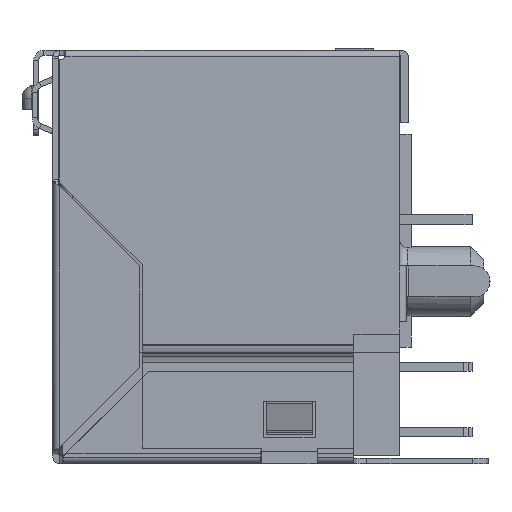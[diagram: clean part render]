
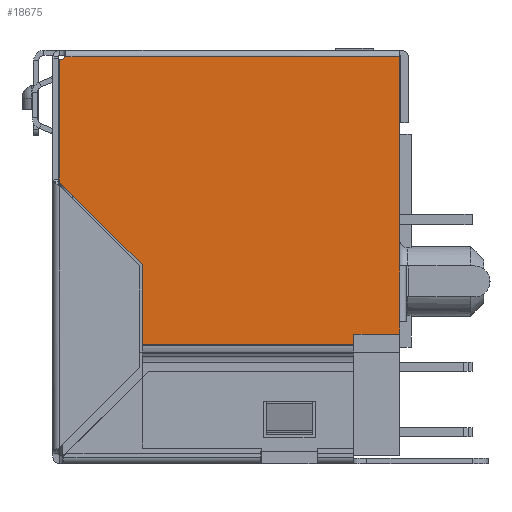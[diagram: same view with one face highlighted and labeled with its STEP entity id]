
A CAD part, left-side view. The second image highlights one B-rep face of the part: STEP entity #18675.
In plain terms, the highlighted planar face has unit normal (-1, 0, 0).
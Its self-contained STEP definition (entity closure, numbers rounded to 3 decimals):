
#2065=CARTESIAN_POINT('',(-27.85,-0.214,0.08));
#2075=DIRECTION('',(0.,1.,0.));
#2076=VECTOR('',#2075,12.956);
#2077=CARTESIAN_POINT('',(-27.85,-13.17,0.08));
#2078=LINE('',#2077,#2076);
#2105=DIRECTION('',(0.,0.,1.));
#2106=VECTOR('',#2105,8.1);
#2107=CARTESIAN_POINT('',(-27.85,-13.17,-8.02));
#2108=LINE('',#2107,#2106);
#4126=DIRECTION('',(0.,0.,1.));
#4127=VECTOR('',#4126,0.397);
#4128=CARTESIAN_POINT('',(-27.85,-11.4,-11.067));
#4129=LINE('',#4128,#4127);
#5056=DIRECTION('',(0.,0.,-1.));
#5057=VECTOR('',#5056,3.097);
#5058=CARTESIAN_POINT('',(-27.85,-3.2,-7.97));
#5059=LINE('',#5058,#5057);
#5064=DIRECTION('',(0.,-1.,0.));
#5065=VECTOR('',#5064,8.2);
#5066=CARTESIAN_POINT('',(-27.85,-3.2,-11.067));
#5067=LINE('',#5066,#5065);
#5088=DIRECTION('',(0.,0.,-1.));
#5089=VECTOR('',#5088,0.5);
#5090=CARTESIAN_POINT('',(-27.85,-13.17,-10.17));
#5091=LINE('',#5090,#5089);
#5092=DIRECTION('',(0.,1.,0.));
#5093=VECTOR('',#5092,1.77);
#5094=CARTESIAN_POINT('',(-27.85,-13.17,-10.67));
#5095=LINE('',#5094,#5093);
#5096=DIRECTION('',(0.,0.707,0.707));
#5097=VECTOR('',#5096,4.525);
#5098=CARTESIAN_POINT('',(-27.85,-3.2,-7.97));
#5099=LINE('',#5098,#5097);
#5100=DIRECTION('',(0.,0.,1.));
#5101=VECTOR('',#5100,4.729);
#5102=CARTESIAN_POINT('',(-27.85,0.,-4.77));
#5103=LINE('',#5102,#5101);
#5104=CARTESIAN_POINT('',(-27.85,0.,0.209));
#5105=DIRECTION('',(-1.,0.,0.));
#5106=DIRECTION('',(0.,0.,-1.));
#5107=AXIS2_PLACEMENT_3D('',#5104,#5105,#5106);
#5113=DIRECTION('',(0.,0.,1.));
#5114=VECTOR('',#5113,2.15);
#5115=CARTESIAN_POINT('',(-27.85,-13.17,-10.17));
#5116=LINE('',#5115,#5114);
#11351=VERTEX_POINT('',#2065);
#11354=CARTESIAN_POINT('',(-27.85,-13.17,0.08));
#11355=VERTEX_POINT('',#11354);
#11362=CARTESIAN_POINT('',(-27.85,-13.17,-8.02));
#11363=VERTEX_POINT('',#11362);
#12096=CARTESIAN_POINT('',(-27.85,-11.4,-11.067));
#12097=VERTEX_POINT('',#12096);
#12098=CARTESIAN_POINT('',(-27.85,-11.4,-10.67));
#12099=VERTEX_POINT('',#12098);
#12385=CARTESIAN_POINT('',(-27.85,-3.2,-11.067));
#12387=VERTEX_POINT('',#12385);
#12397=CARTESIAN_POINT('',(-27.85,-3.2,-7.97));
#12398=VERTEX_POINT('',#12397);
#12401=CARTESIAN_POINT('',(-27.85,-13.17,-10.17));
#12402=VERTEX_POINT('',#12401);
#12403=CARTESIAN_POINT('',(-27.85,-13.17,-10.67));
#12404=VERTEX_POINT('',#12403);
#12405=CARTESIAN_POINT('',(-27.85,0.,-4.77));
#12406=VERTEX_POINT('',#12405);
#12407=CARTESIAN_POINT('',(-27.85,0.,-0.041));
#12408=VERTEX_POINT('',#12407);
#18651=CARTESIAN_POINT('',(-27.85,-6.585,-5.494));
#18652=DIRECTION('',(1.,0.,0.));
#18653=DIRECTION('',(0.,0.,1.));
#18654=AXIS2_PLACEMENT_3D('',#18651,#18652,#18653);
#18655=PLANE('',#18654);
#18656=ORIENTED_EDGE('',*,*,#15472,.F.);
#18657=ORIENTED_EDGE('',*,*,#15495,.F.);
#18659=ORIENTED_EDGE('',*,*,#18658,.F.);
#18661=ORIENTED_EDGE('',*,*,#18660,.T.);
#18663=ORIENTED_EDGE('',*,*,#18662,.T.);
#18664=ORIENTED_EDGE('',*,*,#17433,.F.);
#18665=ORIENTED_EDGE('',*,*,#18579,.F.);
#18666=ORIENTED_EDGE('',*,*,#18565,.F.);
#18668=ORIENTED_EDGE('',*,*,#18667,.T.);
#18670=ORIENTED_EDGE('',*,*,#18669,.T.);
#18672=ORIENTED_EDGE('',*,*,#18671,.T.);
#18673=EDGE_LOOP('',(#18656,#18657,#18659,#18661,#18663,#18664,#18665,#18666,
#18668,#18670,#18672));
#18674=FACE_OUTER_BOUND('',#18673,.F.);
#18675=ADVANCED_FACE('',(#18674),#18655,.F.);
#5108=CIRCLE('',#5107,0.25);
#15472=EDGE_CURVE('',#11355,#11351,#2078,.T.);
#15495=EDGE_CURVE('',#11363,#11355,#2108,.T.);
#17433=EDGE_CURVE('',#12097,#12099,#4129,.T.);
#18565=EDGE_CURVE('',#12398,#12387,#5059,.T.);
#18579=EDGE_CURVE('',#12387,#12097,#5067,.T.);
#18658=EDGE_CURVE('',#12402,#11363,#5116,.T.);
#18660=EDGE_CURVE('',#12402,#12404,#5091,.T.);
#18662=EDGE_CURVE('',#12404,#12099,#5095,.T.);
#18667=EDGE_CURVE('',#12398,#12406,#5099,.T.);
#18669=EDGE_CURVE('',#12406,#12408,#5103,.T.);
#18671=EDGE_CURVE('',#12408,#11351,#5108,.T.);
